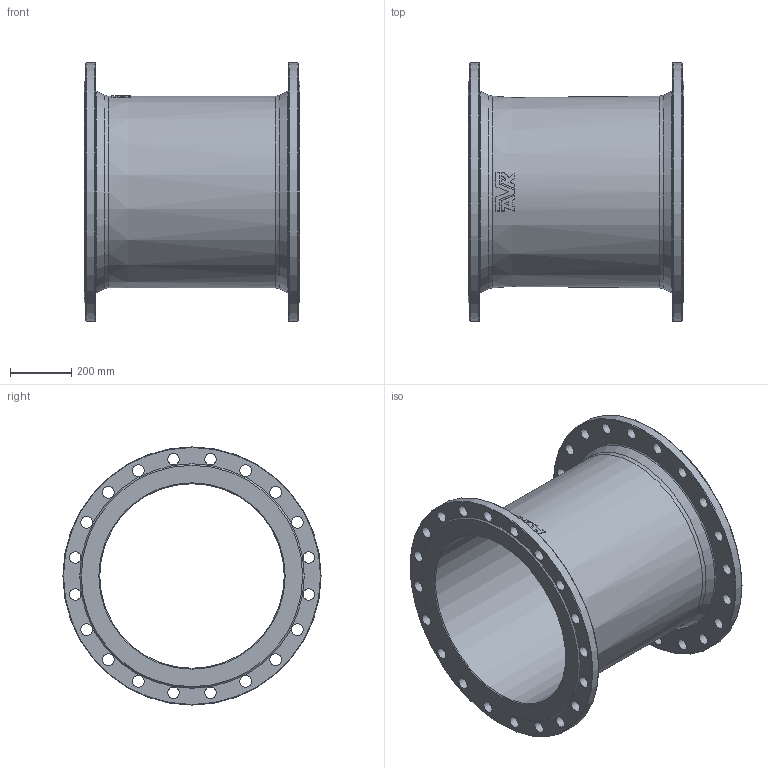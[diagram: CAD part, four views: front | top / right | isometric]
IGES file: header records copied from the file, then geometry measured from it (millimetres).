
Start section: SolidWorks IGES file using analytic representation for surfaces
Global section: file name: \\avksan2\techshare\PBM outline export from Enovia\O_712_5010_DN600_1X_REV01.igs; native system: SolidWorks 2019; preprocessor: SolidWorks 2019; author: pbm; date: 211203.112701; units: millimetre
Bounding box: 700 x 840 x 840 mm (x, y, z)
Surface area: 3753113.2 mm2 (no closed solid volume)
Topology: 0 solids, 0 shells, 105 faces, 534 edges, 475 vertices
Faces by surface type: revolution 62, bspline 43
